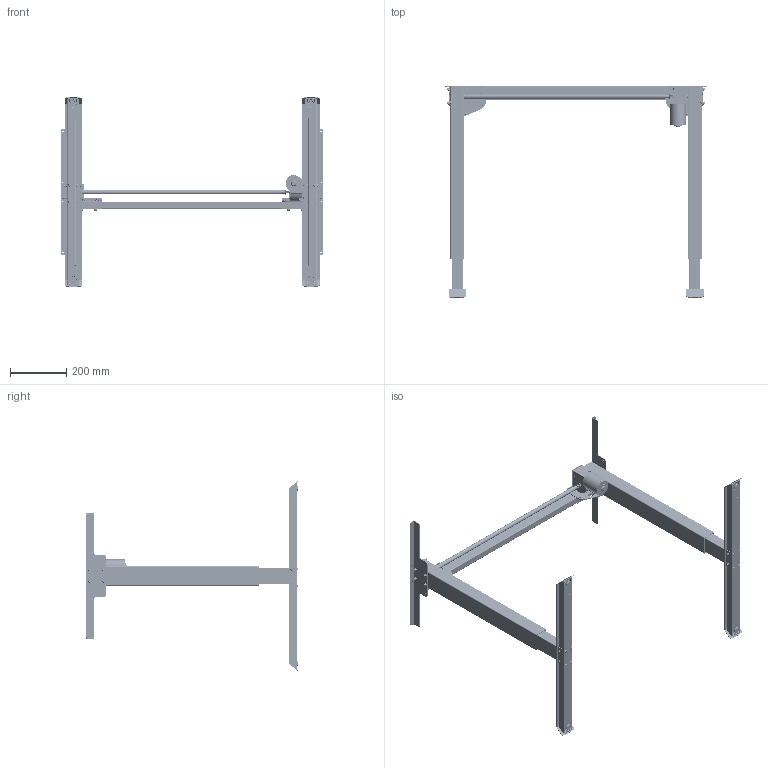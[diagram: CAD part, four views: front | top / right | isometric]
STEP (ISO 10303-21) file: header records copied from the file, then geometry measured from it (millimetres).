
FILE_DESCRIPTION (( 'STEP AP214' ), '1' );
FILE_NAME ('Tech-draw_501-20_XX092.STEP', '2024-01-12T08:41:47', ( '' ), ( '' ), 'SwSTEP 2.0', 'SolidWorks 2023', '' );
FILE_SCHEMA (( 'AUTOMOTIVE_DESIGN' ));
Length unit declared in the file: millimetre
Products named in the file (66): 156480; 353110; 349470; 341800; 160360_silver; 353060; 156460_Shell; 347920_92; 360380; 314690; 353100; 305990; 357710; 332570; 360360_70mm; 159300_Shell; 159280_501-20; 160370_silver; 360290_Mirror; 325000; 359910_501-33 NY; 352350; 156490_Shell; 357990_black; 156470_501-33 NEW; Tech-draw_501-20_XX092; 301890_Bend 7; 360320; 353030; 357630; 357650; 360490; 160340_501-20 XS092; 358020; 357610; 322810_zinc; 356430_60x40; 151900; 353050; 357620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
Assembly tree (159 placements, depth 7):
  305990
  Tech-draw_501-20_XX092
    160340_501-20 XS092
      347910_92
      144260_92
        347920_92
        340560
        341220
      340760  x3
      332570  x4
      160370_silver
        360300
        360330
        159290_Shell
          156440_Shell
            156460_Shell
              356390
              360340_kopi_gammel
            357580  x2
            357760_Højere
            358020
            357710
            352350
          357630  x2
          357640  x2
          341800
          156470_501-33 NEW
            357620
            360350_70mm
          352350
        159280_501-20
          359910_501-33 NY
          360380
          360490  x2
        360310
        358000_Simplify_1  x3
        340760  x2
        332570  x2
        349470  x2
        155730_silver
          357990_black
          356710_silver
          322810_zinc  x3
          353020
          353030
          151900
            353100
            322650_501-33  x2
            353050
            353060
            301890_Bend 7  x2
          353110  x2
          353120
          357720
        357610  x11
        358280  x4
        314690  x7
        325000  x8
      160360_silver
        159300_Shell
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Bounding box: 935 x 756.2 x 674.9 mm (x, y, z)
Volume: 1998869.6 mm3; surface area: 2299897.3 mm2
Topology: 153 solids, 153 shells, 7918 faces, 20276 edges, 12743 vertices
Faces by surface type: plane 4127, cylinder 2383, bspline 589, cone 406, torus 212, sphere 201
Full cylindrical faces by diameter (mm): 1 x3, 1.2 x16, 1.6 x1, 1.7 x2, 1.9 x6, 2.2 x2, 2.5 x5, 3 x20, 3.3 x6, 4 x48, 4.2 x12, 4.5 x5, 4.98 x2, 5 x224, 5.5 x7, 6 x240, 6.4 x1, 7 x20, 7.4 x4, 7.5 x13, 8 x20, 8.2 x4, 8.5 x22, 9 x4, 10 x25, 11.9 x2, 12 x1, 13 x2, 14 x2, 16 x2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
Entity records: 168928 total; most frequent: CARTESIAN_POINT 59714, ORIENTED_EDGE 22410, DIRECTION 21572, EDGE_CURVE 11205, VERTEX_POINT 7339, AXIS2_PLACEMENT_3D 7321, VECTOR 6930, LINE 6930
